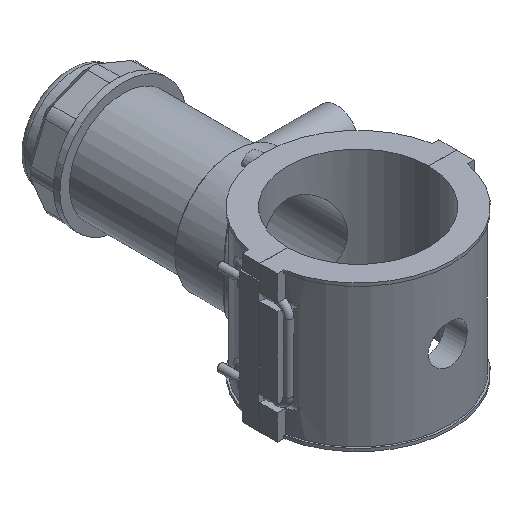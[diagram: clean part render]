
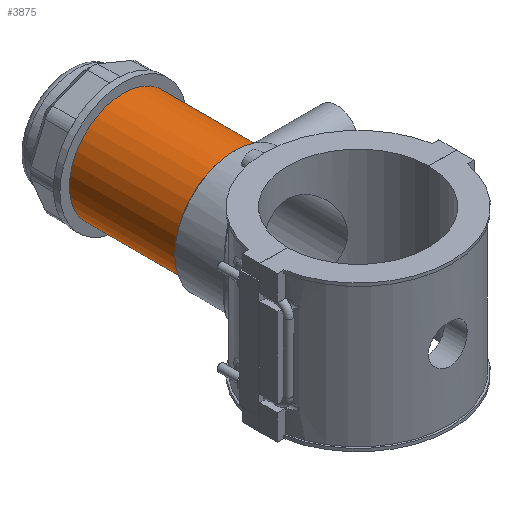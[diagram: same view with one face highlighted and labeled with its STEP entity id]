
A CAD part, isometric view. The second image highlights one B-rep face of the part: STEP entity #3875.
In plain terms, the highlighted cylindrical face has radius 43.643 mm (diameter 87.287 mm), a full revolution.
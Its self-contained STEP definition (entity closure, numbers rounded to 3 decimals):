
#57=FACE_BOUND('',#568,.T.);
#85=B_SPLINE_CURVE_WITH_KNOTS('',3,(#5813,#5814,#5815,#5816,#5817,#5818,
#5819,#5820,#5821,#5822,#5823,#5824,#5825,#5826,#5827,#5828,#5829,#5830),
 .UNSPECIFIED.,.F.,.F.,(4,2,2,2,2,2,2,2,4),(0.,0.317,0.634,
0.952,1.269,1.586,1.903,2.22,
2.537),.UNSPECIFIED.);
#86=B_SPLINE_CURVE_WITH_KNOTS('',3,(#5831,#5832,#5833,#5834,#5835,#5836,
#5837,#5838,#5839,#5840,#5841,#5842,#5843,#5844,#5845,#5846,#5847,#5848,
#5849,#5850,#5851,#5852,#5853,#5854,#5855,#5856,#5857,#5858,#5859,#5860,
#5861,#5862,#5863,#5864,#5865,#5866,#5867,#5868,#5869,#5870,#5871,#5872,
#5873,#5874,#5875,#5876,#5877,#5878,#5879,#5880),.UNSPECIFIED.,.F.,.F.,
(4,2,2,2,2,2,2,2,2,2,2,2,2,2,2,2,2,2,2,2,2,2,2,2,4),(2.537,2.854,
3.171,3.488,3.805,4.122,4.439,
4.756,5.074,5.391,5.708,6.025,
6.343,6.66,6.977,7.294,7.611,
7.928,8.244,8.561,8.878,9.196,
9.513,9.83,10.147),.UNSPECIFIED.);
#347=FACE_OUTER_BOUND('',#567,.T.);
#567=EDGE_LOOP('',(#2858,#2859,#2860,#2861,#2862,#2863));
#568=EDGE_LOOP('',(#2864,#2865));
#798=CIRCLE('',#4156,43.643);
#799=CIRCLE('',#4157,43.643);
#812=CIRCLE('',#4184,43.643);
#813=CIRCLE('',#4185,43.643);
#987=LINE('',#6130,#1326);
#1326=VECTOR('',#4773,43.643);
#1624=VERTEX_POINT('',#5810);
#1625=VERTEX_POINT('',#5812);
#1687=VERTEX_POINT('',#6071);
#1688=VERTEX_POINT('',#6072);
#1702=VERTEX_POINT('',#6126);
#1703=VERTEX_POINT('',#6127);
#2011=EDGE_CURVE('',#1625,#1624,#85,.T.);
#2012=EDGE_CURVE('',#1624,#1625,#86,.T.);
#2107=EDGE_CURVE('',#1687,#1688,#798,.T.);
#2108=EDGE_CURVE('',#1688,#1687,#799,.T.);
#2133=EDGE_CURVE('',#1702,#1703,#812,.T.);
#2134=EDGE_CURVE('',#1703,#1702,#813,.T.);
#2135=EDGE_CURVE('',#1703,#1688,#987,.T.);
#2858=ORIENTED_EDGE('',*,*,#2133,.F.);
#2859=ORIENTED_EDGE('',*,*,#2134,.F.);
#2860=ORIENTED_EDGE('',*,*,#2135,.T.);
#2861=ORIENTED_EDGE('',*,*,#2108,.T.);
#2862=ORIENTED_EDGE('',*,*,#2107,.T.);
#2863=ORIENTED_EDGE('',*,*,#2135,.F.);
#2864=ORIENTED_EDGE('',*,*,#2011,.T.);
#2865=ORIENTED_EDGE('',*,*,#2012,.T.);
#3776=CYLINDRICAL_SURFACE('',#4183,43.643);
#3875=ADVANCED_FACE('',(#347,#57),#3776,.T.);
#4156=AXIS2_PLACEMENT_3D('',#6073,#4701,#4702);
#4157=AXIS2_PLACEMENT_3D('',#6074,#4703,#4704);
#4183=AXIS2_PLACEMENT_3D('',#6125,#4767,#4768);
#4184=AXIS2_PLACEMENT_3D('',#6128,#4769,#4770);
#4185=AXIS2_PLACEMENT_3D('',#6129,#4771,#4772);
#4701=DIRECTION('center_axis',(0.,1.,0.));
#4702=DIRECTION('ref_axis',(1.,0.,0.));
#4703=DIRECTION('center_axis',(0.,1.,0.));
#4704=DIRECTION('ref_axis',(1.,0.,0.));
#4767=DIRECTION('center_axis',(0.,1.,0.));
#4768=DIRECTION('ref_axis',(0.,0.,1.));
#4769=DIRECTION('center_axis',(0.,1.,0.));
#4770=DIRECTION('ref_axis',(1.,0.,0.));
#4771=DIRECTION('center_axis',(0.,1.,0.));
#4772=DIRECTION('ref_axis',(1.,0.,0.));
#4773=DIRECTION('',(0.,-1.,0.));
#5810=CARTESIAN_POINT('',(43.643,105.424,0.));
#5812=CARTESIAN_POINT('',(40.342,122.074,-16.65));
#5813=CARTESIAN_POINT('Ctrl Pts',(40.342,122.074,-16.65));
#5814=CARTESIAN_POINT('Ctrl Pts',(40.342,121.017,-16.65));
#5815=CARTESIAN_POINT('Ctrl Pts',(40.385,119.927,-16.548));
#5816=CARTESIAN_POINT('Ctrl Pts',(40.557,117.767,-16.121));
#5817=CARTESIAN_POINT('Ctrl Pts',(40.687,116.696,-15.797));
#5818=CARTESIAN_POINT('Ctrl Pts',(41.008,114.649,-14.944));
#5819=CARTESIAN_POINT('Ctrl Pts',(41.199,113.67,-14.415));
#5820=CARTESIAN_POINT('Ctrl Pts',(41.605,111.863,-13.196));
#5821=CARTESIAN_POINT('Ctrl Pts',(41.82,111.034,-12.507));
#5822=CARTESIAN_POINT('Ctrl Pts',(42.231,109.568,-11.04));
#5823=CARTESIAN_POINT('Ctrl Pts',(42.442,108.878,-10.212));
#5824=CARTESIAN_POINT('Ctrl Pts',(42.836,107.66,-8.404));
#5825=CARTESIAN_POINT('Ctrl Pts',(43.019,107.13,-7.425));
#5826=CARTESIAN_POINT('Ctrl Pts',(43.323,106.277,-5.377));
#5827=CARTESIAN_POINT('Ctrl Pts',(43.444,105.953,-4.306));
#5828=CARTESIAN_POINT('Ctrl Pts',(43.604,105.526,-2.146));
#5829=CARTESIAN_POINT('Ctrl Pts',(43.643,105.424,-1.057));
#5830=CARTESIAN_POINT('Ctrl Pts',(43.643,105.424,0.));
#5831=CARTESIAN_POINT('Ctrl Pts',(43.643,105.424,0.));
#5832=CARTESIAN_POINT('Ctrl Pts',(43.643,105.424,1.057));
#5833=CARTESIAN_POINT('Ctrl Pts',(43.604,105.526,2.146));
#5834=CARTESIAN_POINT('Ctrl Pts',(43.444,105.953,4.306));
#5835=CARTESIAN_POINT('Ctrl Pts',(43.323,106.277,5.377));
#5836=CARTESIAN_POINT('Ctrl Pts',(43.019,107.13,7.425));
#5837=CARTESIAN_POINT('Ctrl Pts',(42.836,107.66,8.404));
#5838=CARTESIAN_POINT('Ctrl Pts',(42.442,108.878,10.212));
#5839=CARTESIAN_POINT('Ctrl Pts',(42.231,109.568,11.04));
#5840=CARTESIAN_POINT('Ctrl Pts',(41.82,111.034,12.507));
#5841=CARTESIAN_POINT('Ctrl Pts',(41.605,111.863,13.196));
#5842=CARTESIAN_POINT('Ctrl Pts',(41.199,113.67,14.415));
#5843=CARTESIAN_POINT('Ctrl Pts',(41.008,114.649,14.944));
#5844=CARTESIAN_POINT('Ctrl Pts',(40.687,116.696,15.797));
#5845=CARTESIAN_POINT('Ctrl Pts',(40.557,117.767,16.121));
#5846=CARTESIAN_POINT('Ctrl Pts',(40.385,119.927,16.548));
#5847=CARTESIAN_POINT('Ctrl Pts',(40.342,121.017,16.65));
#5848=CARTESIAN_POINT('Ctrl Pts',(40.342,123.131,16.65));
#5849=CARTESIAN_POINT('Ctrl Pts',(40.385,124.221,16.548));
#5850=CARTESIAN_POINT('Ctrl Pts',(40.557,126.381,16.121));
#5851=CARTESIAN_POINT('Ctrl Pts',(40.687,127.452,15.797));
#5852=CARTESIAN_POINT('Ctrl Pts',(41.008,129.499,14.944));
#5853=CARTESIAN_POINT('Ctrl Pts',(41.199,130.478,14.415));
#5854=CARTESIAN_POINT('Ctrl Pts',(41.605,132.285,13.196));
#5855=CARTESIAN_POINT('Ctrl Pts',(41.82,133.114,12.507));
#5856=CARTESIAN_POINT('Ctrl Pts',(42.231,134.58,11.04));
#5857=CARTESIAN_POINT('Ctrl Pts',(42.442,135.27,10.212));
#5858=CARTESIAN_POINT('Ctrl Pts',(42.836,136.488,8.404));
#5859=CARTESIAN_POINT('Ctrl Pts',(43.019,137.018,7.425));
#5860=CARTESIAN_POINT('Ctrl Pts',(43.323,137.871,5.377));
#5861=CARTESIAN_POINT('Ctrl Pts',(43.444,138.195,4.306));
#5862=CARTESIAN_POINT('Ctrl Pts',(43.604,138.622,2.146));
#5863=CARTESIAN_POINT('Ctrl Pts',(43.643,138.724,1.057));
#5864=CARTESIAN_POINT('Ctrl Pts',(43.643,138.724,-1.057));
#5865=CARTESIAN_POINT('Ctrl Pts',(43.604,138.622,-2.146));
#5866=CARTESIAN_POINT('Ctrl Pts',(43.444,138.195,-4.306));
#5867=CARTESIAN_POINT('Ctrl Pts',(43.323,137.871,-5.377));
#5868=CARTESIAN_POINT('Ctrl Pts',(43.019,137.018,-7.425));
#5869=CARTESIAN_POINT('Ctrl Pts',(42.836,136.488,-8.404));
#5870=CARTESIAN_POINT('Ctrl Pts',(42.442,135.27,-10.212));
#5871=CARTESIAN_POINT('Ctrl Pts',(42.231,134.58,-11.04));
#5872=CARTESIAN_POINT('Ctrl Pts',(41.82,133.114,-12.507));
#5873=CARTESIAN_POINT('Ctrl Pts',(41.605,132.285,-13.196));
#5874=CARTESIAN_POINT('Ctrl Pts',(41.199,130.478,-14.415));
#5875=CARTESIAN_POINT('Ctrl Pts',(41.008,129.499,-14.944));
#5876=CARTESIAN_POINT('Ctrl Pts',(40.687,127.452,-15.797));
#5877=CARTESIAN_POINT('Ctrl Pts',(40.557,126.381,-16.121));
#5878=CARTESIAN_POINT('Ctrl Pts',(40.385,124.221,-16.548));
#5879=CARTESIAN_POINT('Ctrl Pts',(40.342,123.131,-16.65));
#5880=CARTESIAN_POINT('Ctrl Pts',(40.342,122.074,-16.65));
#6071=CARTESIAN_POINT('',(0.,100.587,43.643));
#6072=CARTESIAN_POINT('',(0.,100.587,-43.643));
#6073=CARTESIAN_POINT('Origin',(0.,100.587,0.));
#6074=CARTESIAN_POINT('Origin',(0.,100.587,0.));
#6125=CARTESIAN_POINT('Origin',(0.,145.208,0.));
#6126=CARTESIAN_POINT('',(0.,189.829,43.643));
#6127=CARTESIAN_POINT('',(0.,189.829,-43.643));
#6128=CARTESIAN_POINT('Origin',(0.,189.829,0.));
#6129=CARTESIAN_POINT('Origin',(0.,189.829,0.));
#6130=CARTESIAN_POINT('',(0.,145.208,-43.643));
